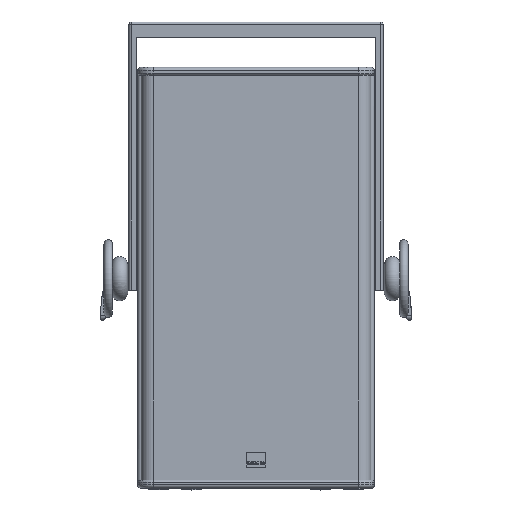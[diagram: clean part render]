
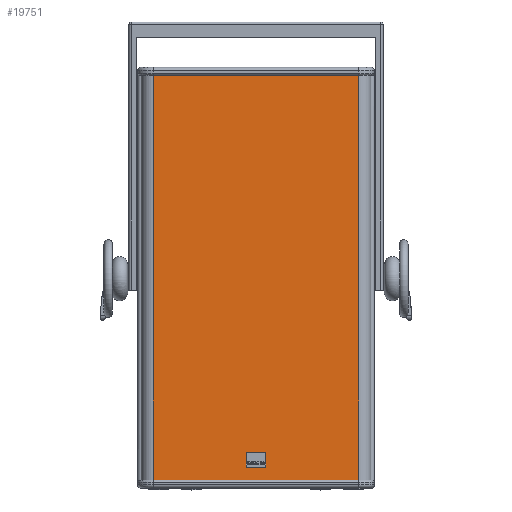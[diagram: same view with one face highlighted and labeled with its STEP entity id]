
A CAD part, top view. The second image highlights one B-rep face of the part: STEP entity #19751.
In plain terms, the highlighted planar face has unit normal (0, 0, 1) as drawn and (0, -1, 0) by its records, which use the part's own axes.
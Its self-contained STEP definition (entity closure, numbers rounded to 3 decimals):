
#18930 = CARTESIAN_POINT ( 'NONE',  ( 420., 6.444, 770. ) ) ;
#18931 = CARTESIAN_POINT ( 'NONE',  ( 30., 6.444, 0. ) ) ;
#18937 = CARTESIAN_POINT ( 'NONE',  ( 30., 6.444, 770. ) ) ;
#18939 = DIRECTION ( 'NONE',  ( 0., 0., 1. ) ) ;
#18940 = VECTOR ( 'NONE', #18939, 1000. ) ;
#18941 = CARTESIAN_POINT ( 'NONE',  ( 30., 6.444, 0. ) ) ;
#18942 = LINE ( 'NONE', #18941, #18940 ) ;
#18944 = DIRECTION ( 'NONE',  ( 0., 0., -1. ) ) ;
#18945 = VECTOR ( 'NONE', #18944, 1000. ) ;
#18946 = CARTESIAN_POINT ( 'NONE',  ( 420., 6.444, 0. ) ) ;
#18947 = LINE ( 'NONE', #18946, #18945 ) ;
#18948 = DIRECTION ( 'NONE',  ( 1., 0., 0. ) ) ;
#18949 = VECTOR ( 'NONE', #18948, 1000. ) ;
#18950 = CARTESIAN_POINT ( 'NONE',  ( 6.444, 6.444, 770. ) ) ;
#18951 = LINE ( 'NONE', #18950, #18949 ) ;
#18986 = DIRECTION ( 'NONE',  ( 1., 0., 0. ) ) ;
#18987 = DIRECTION ( 'NONE',  ( 0., -1., 0. ) ) ;
#18988 = CARTESIAN_POINT ( 'NONE',  ( 420., 6.444, 0. ) ) ;
#18989 = AXIS2_PLACEMENT_3D ( 'NONE', #18988, #18987, #18986 ) ;
#18990 = PLANE ( 'NONE',  #18989 ) ;
#18991 = FACE_OUTER_BOUND ( 'NONE', #19752, .T. ) ;
#18992 = CARTESIAN_POINT ( 'NONE',  ( 420., 6.444, 0. ) ) ;
#18993 = DIRECTION ( 'NONE',  ( 1., 0., 0. ) ) ;
#18994 = VECTOR ( 'NONE', #18993, 1000. ) ;
#18995 = CARTESIAN_POINT ( 'NONE',  ( 224.985, 6.444, 0. ) ) ;
#18996 = LINE ( 'NONE', #18995, #18994 ) ;
#19733 = ORIENTED_EDGE ( 'NONE', *, *, #19734, .F. ) ;
#19734 = EDGE_CURVE ( 'NONE', #19740, #19744, #18951, .T. ) ;
#19736 = EDGE_CURVE ( 'NONE', #19744, #19746, #18947, .T. ) ;
#19737 = EDGE_CURVE ( 'NONE', #19743, #19740, #18942, .T. ) ;
#19740 = VERTEX_POINT ( 'NONE', #18937 ) ;
#19741 = ORIENTED_EDGE ( 'NONE', *, *, #19737, .F. ) ;
#19742 = ORIENTED_EDGE ( 'NONE', *, *, #19736, .F. ) ;
#19743 = VERTEX_POINT ( 'NONE', #18931 ) ;
#19744 = VERTEX_POINT ( 'NONE', #18930 ) ;
#19745 = EDGE_CURVE ( 'NONE', #19743, #19746, #18996, .T. ) ;
#19746 = VERTEX_POINT ( 'NONE', #18992 ) ;
#19748 = ORIENTED_EDGE ( 'NONE', *, *, #19745, .T. ) ;
#19751 = ADVANCED_FACE ( 'NONE', ( #18991 ), #18990, .T. ) ;
#19752 = EDGE_LOOP ( 'NONE', ( #19748, #19742, #19733, #19741 ) ) ;
